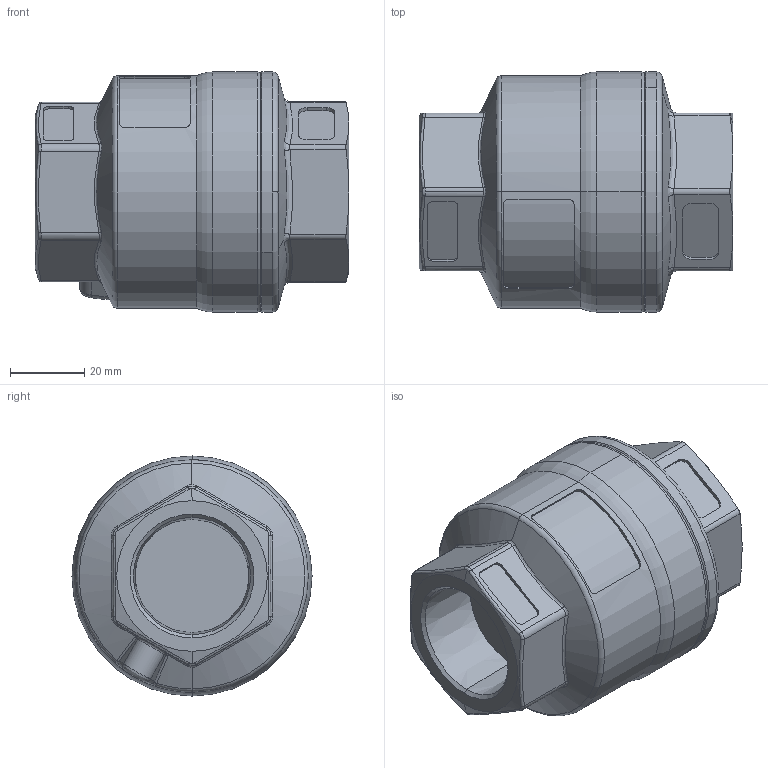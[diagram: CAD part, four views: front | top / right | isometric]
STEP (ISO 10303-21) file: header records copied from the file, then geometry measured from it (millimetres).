
FILE_DESCRIPTION (( 'STEP AP214' ), '1' );
FILE_NAME ('SCV 1-750 NPT.STEP', '2014-01-29T18:35:29', ( 'DFT Admin' ), ( 'Microsoft' ), 'SwSTEP 2.0', 'SolidWorks 2011', '' );
FILE_SCHEMA (( 'AUTOMOTIVE_DESIGN' ));
Length unit declared in the file: inch
Products named in the file (1): SCV 1-750 NPT
Bounding box: 84.33 x 64.52 x 64.52 mm (x, y, z)
Volume: 176847.4 mm3; surface area: 23973.4 mm2
Topology: 1 solids, 1 shells, 179 faces, 438 edges, 269 vertices
Faces by surface type: cylinder 49, plane 47, bspline 44, cone 26, torus 10, sphere 3
Entity records: 8103 total; most frequent: CARTESIAN_POINT 3386, ORIENTED_EDGE 872, DIRECTION 727, EDGE_CURVE 436, AXIS2_PLACEMENT_3D 288, VERTEX_POINT 269, EDGE_LOOP 189, FACE_OUTER_BOUND 179
